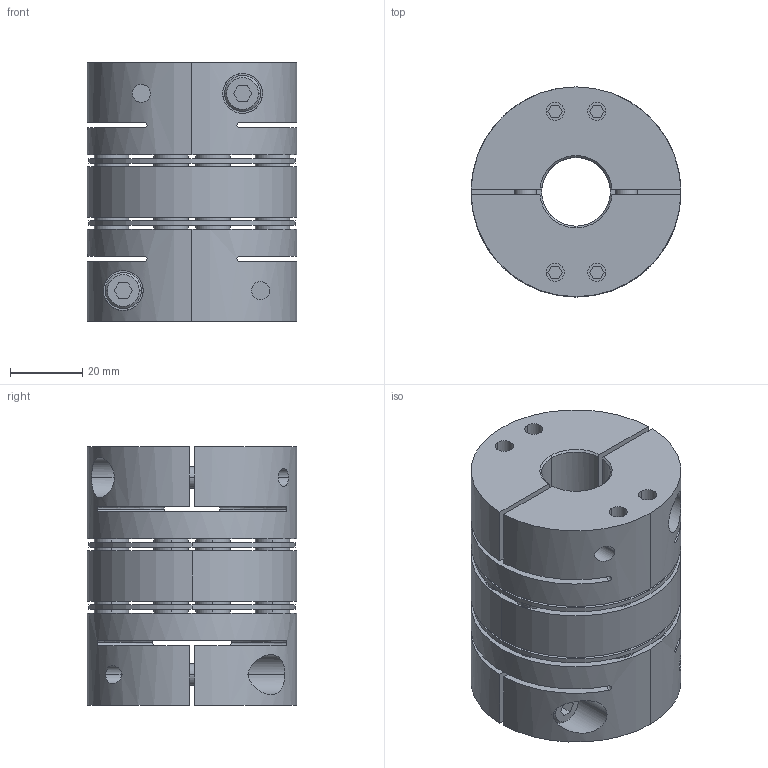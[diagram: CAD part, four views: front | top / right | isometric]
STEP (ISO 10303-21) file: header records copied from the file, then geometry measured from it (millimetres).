
FILE_DESCRIPTION((''),'2;1');
FILE_NAME('TAD-58C-19×25.stp','2022-11-13T22:25:46',(''),(''),'AutoCAD STEP 2000i','AutoCAD 2000i',', , ');
FILE_SCHEMA(('CONFIG_CONTROL_DESIGN'));
Length unit declared in the file: millimetre
Products named in the file (7): TAD-58C-12×22; 忣兜1; TA58C-22; CAP-M6×20; TA58C-12-2; TA58C-12; TAS-58C-ITA
Assembly tree (8 placements, depth 3):
  TAD-58C-12×22
    忣兜1
    TA58C-22
      CAP-M6×20
    TA58C-12-2
      CAP-M6×20
    TA58C-12
      CAP-M6×20
    TAS-58C-ITA
Bounding box: 58 x 58 x 71.5 mm (x, y, z)
Volume: 130392.1 mm3; surface area: 55243.5 mm2
Topology: 1 solids, 5 shells, 568 faces, 1361 edges, 937 vertices
Faces by surface type: plane 252, cylinder 228, cone 72, bspline 16
Entity records: 18651 total; most frequent: CARTESIAN_POINT 4810, DIRECTION 3008, ORIENTED_EDGE 2640, EDGE_CURVE 1320, AXIS2_PLACEMENT_3D 1142, VERTEX_POINT 860, EDGE_LOOP 724, VECTOR 724
